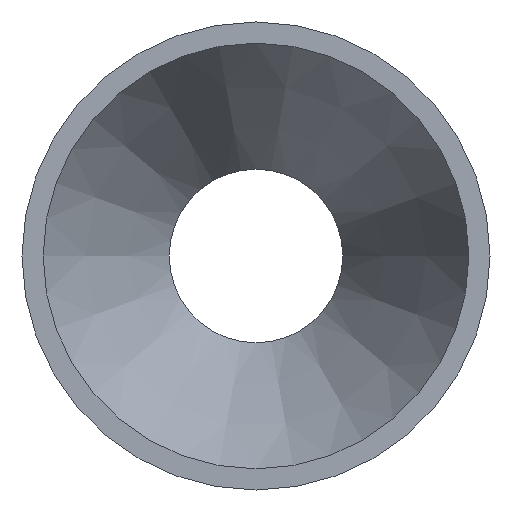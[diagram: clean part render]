
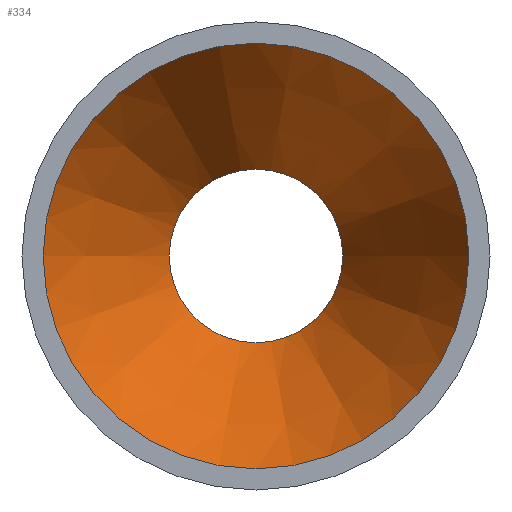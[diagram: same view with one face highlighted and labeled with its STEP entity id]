
A CAD part, left-side view. The second image highlights one B-rep face of the part: STEP entity #334.
In plain terms, the highlighted conical face has half-angle 27.489 degrees and reference radius 19.304 mm.
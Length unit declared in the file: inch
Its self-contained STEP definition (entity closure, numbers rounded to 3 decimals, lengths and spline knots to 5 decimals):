
#66=FACE_OUTER_BOUND('',#82,.T.);
#82=EDGE_LOOP('',(#235,#236,#237,#238,#239,#240));
#104=LINE('',#580,#114);
#114=VECTOR('',#447,0.76);
#127=CIRCLE('',#375,0.44);
#128=CIRCLE('',#376,1.08);
#129=CIRCLE('',#377,1.08);
#130=CIRCLE('',#378,0.44);
#159=VERTEX_POINT('',#576);
#160=VERTEX_POINT('',#577);
#161=VERTEX_POINT('',#579);
#162=VERTEX_POINT('',#581);
#192=EDGE_CURVE('',#159,#160,#127,.T.);
#193=EDGE_CURVE('',#160,#161,#104,.T.);
#194=EDGE_CURVE('',#162,#161,#128,.T.);
#195=EDGE_CURVE('',#161,#162,#129,.T.);
#196=EDGE_CURVE('',#160,#159,#130,.T.);
#235=ORIENTED_EDGE('',*,*,#192,.T.);
#236=ORIENTED_EDGE('',*,*,#193,.T.);
#237=ORIENTED_EDGE('',*,*,#194,.F.);
#238=ORIENTED_EDGE('',*,*,#195,.F.);
#239=ORIENTED_EDGE('',*,*,#193,.F.);
#240=ORIENTED_EDGE('',*,*,#196,.T.);
#314=CONICAL_SURFACE('',#374,0.76,0.48);
#334=ADVANCED_FACE('',(#66),#314,.F.);
#374=AXIS2_PLACEMENT_3D('',#575,#443,#444);
#375=AXIS2_PLACEMENT_3D('',#578,#445,#446);
#376=AXIS2_PLACEMENT_3D('',#582,#448,#449);
#377=AXIS2_PLACEMENT_3D('',#583,#450,#451);
#378=AXIS2_PLACEMENT_3D('',#584,#452,#453);
#443=DIRECTION('center_axis',(-1.,0.,0.));
#444=DIRECTION('ref_axis',(0.,1.,0.));
#445=DIRECTION('center_axis',(1.,0.,0.));
#446=DIRECTION('ref_axis',(0.,1.,0.));
#447=DIRECTION('',(-0.887,-0.462,0.));
#448=DIRECTION('center_axis',(1.,0.,0.));
#449=DIRECTION('ref_axis',(0.,1.,0.));
#450=DIRECTION('center_axis',(1.,0.,0.));
#451=DIRECTION('ref_axis',(0.,1.,0.));
#452=DIRECTION('center_axis',(1.,0.,0.));
#453=DIRECTION('ref_axis',(0.,1.,0.));
#575=CARTESIAN_POINT('Origin',(1.875,0.,0.));
#576=CARTESIAN_POINT('',(2.49,0.44,0.));
#577=CARTESIAN_POINT('',(2.49,-0.44,0.));
#578=CARTESIAN_POINT('Origin',(2.49,0.,0.));
#579=CARTESIAN_POINT('',(1.26,-1.08,0.));
#580=CARTESIAN_POINT('',(1.875,-0.76,0.));
#581=CARTESIAN_POINT('',(1.26,1.08,0.));
#582=CARTESIAN_POINT('Origin',(1.26,0.,0.));
#583=CARTESIAN_POINT('Origin',(1.26,0.,0.));
#584=CARTESIAN_POINT('Origin',(2.49,0.,0.));
